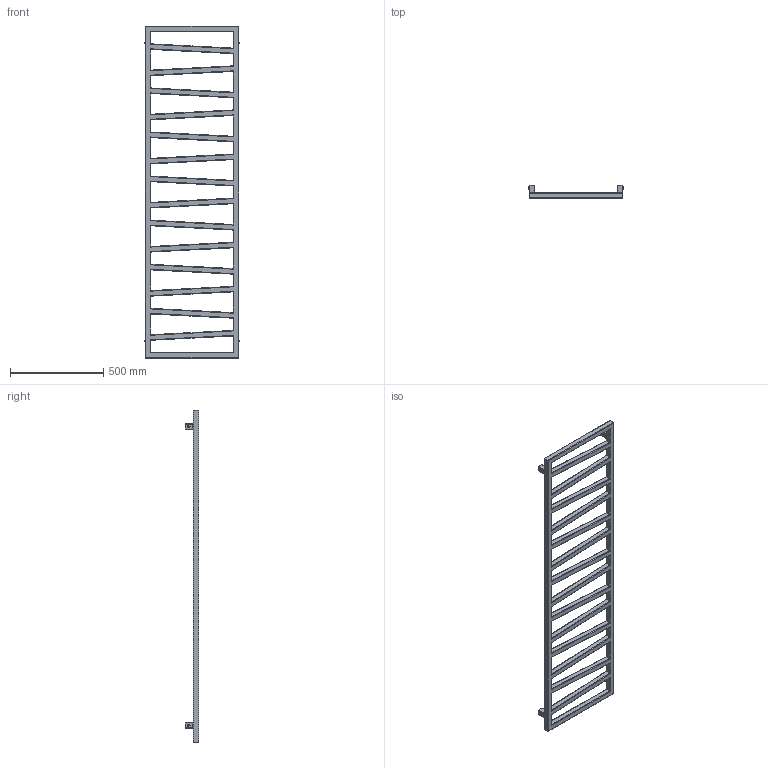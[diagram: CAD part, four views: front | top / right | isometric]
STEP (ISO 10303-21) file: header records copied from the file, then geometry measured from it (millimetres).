
FILE_DESCRIPTION((''),'2;1');
FILE_NAME('Z:\R\G\P\RGP106 - Grzejnik Zigzag\Work\Inventor\Marketing\Katalog 2012\Modele AutoCAD\ZIG-1780-500-SX.stp','2012-07-12T15:34:58',('KurKa'),(''),'Autodesk Inventor 2012','Autodesk Inventor 2012','');
FILE_SCHEMA(('AUTOMOTIVE_DESIGN { 1 0 10303 214 1 1 1 1 }'));
Length unit declared in the file: millimetre
Products named in the file (3): ZIG-1780-500-SX; MMT42_marketing
Assembly tree (5 placements, depth 2):
  ZIG-1780-500-SX
    ZIG-1780-500-SX
    MMT42_marketing  x4
Bounding box: 506 x 72 x 1780 mm (x, y, z)
Volume: 9593968.4 mm3; surface area: 1225788.4 mm2
Topology: 5 solids, 5 shells, 383 faces, 899 edges, 541 vertices
Faces by surface type: cylinder 179, plane 169, cone 24, torus 11
Full cylindrical faces by diameter (mm): 4.509 x4, 11.445 x1, 12 x4, 18.631 x2
Entity records: 6993 total; most frequent: DIRECTION 1242, CARTESIAN_POINT 1184, ORIENTED_EDGE 1120, EDGE_CURVE 560, AXIS2_PLACEMENT_3D 430, VECTOR 382, LINE 382, VERTEX_POINT 332
